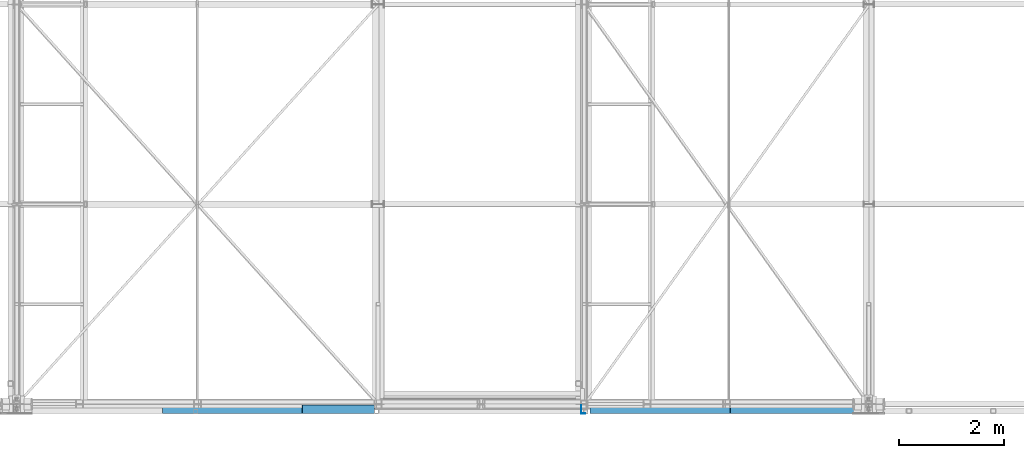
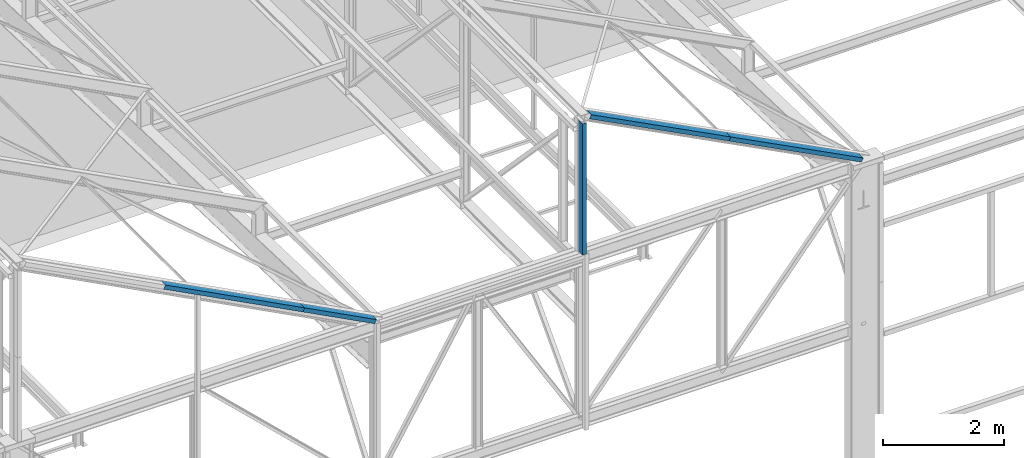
# One storey, part 117 of 123: 5 beams, 5 elements without a shape of their own.
"""IFC2X3 building model written with IfcOpenShell, lengths in millimetres."""

from ifc_helpers import new_model, si_unit, frame, origin_with_axes, place, context, subcontext, project, spatial, faceted_brep, material, type_object, element, aggregate, save


model = new_model("IFC2X3")

# Units and contexts
model_context = context("Model", 3, precision=1e-05, world=origin_with_axes())
body_context = subcontext(model_context, "Body", "Model", "MODEL_VIEW")
ifc_project = project(units=[si_unit("LENGTHUNIT", "METRE", prefix="MILLI"), si_unit("AREAUNIT", "SQUARE_METRE"), si_unit("VOLUMEUNIT", "CUBIC_METRE"), si_unit("MASSUNIT", "GRAM", prefix="KILO"), si_unit("TIMEUNIT", "SECOND"), si_unit("PLANEANGLEUNIT", "RADIAN"), si_unit("SOLIDANGLEUNIT", "STERADIAN"), si_unit("THERMODYNAMICTEMPERATUREUNIT", "DEGREE_CELSIUS"), si_unit("LUMINOUSINTENSITYUNIT", "LUMEN")], contexts=[model_context])

# Site, building, storey
site_placement = place(None, origin_with_axes())
site = spatial("IfcSite", under=ifc_project, at=site_placement, Name="Undefined", CompositionType="ELEMENT")
building_placement = place(site_placement, origin_with_axes())
building = spatial("IfcBuilding", under=site, at=building_placement, Name="Undefined", CompositionType="ELEMENT")
storey_placement = place(building_placement, origin_with_axes())
storey = spatial("IfcBuildingStorey", under=building, at=storey_placement, Name="Undefined", CompositionType="ELEMENT", Elevation=0.0)

# Assembly, beam
assembly_1_placement = place(storey_placement, origin_with_axes())
assembly_1 = element("IfcElementAssembly", 1, at=assembly_1_placement, inside=storey, Name="Steel Assembly", AssemblyPlace="NOTDEFINED", PredefinedType="RIGID_FRAME")
ifc_material = material(Name="STEEL/S235-E24")
beam_type_1 = type_object("IfcBeamType", Name="PL5*2850", PredefinedType="NOTDEFINED")
beam_1_placement = place(assembly_1_placement, frame((27476.4134830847, -177.499999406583, 9229.47960001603), z_axis=(0.887870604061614, 0.0, -0.460093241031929), x_axis=(0.46009324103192, -7.00000004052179e-09, 0.887870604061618)))
beam_1 = element("IfcBeam", 2, at=beam_1_placement, type_object=beam_type_1, material=ifc_material, Name="FEUILLURE", ObjectType="PL5*2850", context=body_context, shape_type="Brep", body=[
    faceted_brep([(-5.45696821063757e-11, -2.49999999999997, -1425.0), (2.04818206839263e-09, -2.49999999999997, 1425.0), (5.45696821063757e-11, 2.50000000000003, 1425.0), (-2.04818206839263e-09, 2.50000000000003, -1425.0), (80.0000324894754, 2.50000003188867, 1424.99999999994), (80.0000324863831, 2.50000003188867, -1425.00000000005), (75.0000324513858, -2.49999997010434, -1425.00000000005), (75.0000324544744, -2.49999997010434, 1424.99999999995), (80.0000313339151, -162.500000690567, 1424.99999999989), (80.0000313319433, -162.500000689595, -1425.00000000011), (75.0000313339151, -162.500000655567, 1424.99999999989), (75.0000313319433, -162.500000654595, -1425.00000000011)], [[[0, 1, 2, 3]], [[3, 2, 4, 5]], [[1, 0, 6, 7]], [[5, 4, 8, 9]], [[4, 2, 1, 7, 10, 8]], [[7, 6, 11, 10]], [[6, 0, 3, 5, 9, 11]], [[10, 11, 9, 8]]]),
])
aggregate(assembly_1, [beam_1])

assembly_2_placement = place(storey_placement, origin_with_axes())
assembly_2 = element("IfcElementAssembly", 3, at=assembly_2_placement, inside=storey, Name="Steel Assembly", AssemblyPlace="NOTDEFINED", PredefinedType="RIGID_FRAME")
beam_type_2 = type_object("IfcBeamType", Name="PL5*1550", PredefinedType="NOTDEFINED")
beam_2_placement = place(assembly_2_placement, frame((18760.4275717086, -177.499999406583, 8924.471740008), z_axis=(0.886082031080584, 0.0, -0.463528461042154), x_axis=(0.463528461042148, -7.00000004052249e-09, 0.886082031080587)))
beam_2 = element("IfcBeam", 4, at=beam_2_placement, type_object=beam_type_2, material=ifc_material, Name="FEUILLURE", ObjectType="PL5*1550", context=body_context, shape_type="Brep", body=[
    faceted_brep([(1.24782673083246e-09, -2.49999999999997, -775.000000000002), (8.40373104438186e-10, -2.49999999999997, 774.999999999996), (-1.24418875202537e-09, 2.50000000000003, 774.999999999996), (-8.40373104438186e-10, 2.50000000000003, -775.000000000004), (80.0000298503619, 2.50000003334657, 775.00000000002), (80.0000298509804, 2.50000003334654, -774.99999999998), (75.0000298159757, -2.4999999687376, -774.999999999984), (75.0000298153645, -2.49999996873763, 775.000000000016), (80.0000287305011, -157.500000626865, 775.00000000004), (80.0000287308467, -157.500000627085, -774.999999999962), (75.0000287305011, -157.500000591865, 775.000000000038), (75.000028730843, -157.500000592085, -774.999999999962)], [[[0, 1, 2, 3]], [[3, 2, 4, 5]], [[1, 0, 6, 7]], [[5, 4, 8, 9]], [[4, 2, 1, 7, 10, 8]], [[7, 6, 11, 10]], [[6, 0, 3, 5, 9, 11]], [[10, 11, 9, 8]]]),
])
aggregate(assembly_2, [beam_2])

assembly_3_placement = place(storey_placement, origin_with_axes())
assembly_3 = element("IfcElementAssembly", 5, at=assembly_3_placement, inside=storey, Name="Steel Assembly", AssemblyPlace="NOTDEFINED", PredefinedType="RIGID_FRAME")
beam_type_3 = type_object("IfcBeamType", Name="PL5*3000", PredefinedType="NOTDEFINED")
beam_3_placement = place(assembly_3_placement, frame((16744.5909509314, -177.499999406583, 9978.99898898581), z_axis=(0.886082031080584, 0.0, -0.463528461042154), x_axis=(0.463528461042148, -7.00000004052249e-09, 0.886082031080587)))
beam_3 = element("IfcBeam", 6, at=beam_3_placement, type_object=beam_type_3, material=ifc_material, Name="FEUILLURE", ObjectType="PL5*3000", context=body_context, shape_type="Brep", body=[
    faceted_brep([(1.43700162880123e-09, -2.5, -1500.0), (6.47560227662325e-10, -2.49999999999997, 1500.0), (-1.43700162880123e-09, 2.50000000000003, 1500.0), (-6.43922248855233e-10, 2.5, -1500.0), (80.0000297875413, 2.50000003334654, 1500.00000000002), (80.0000297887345, 2.50000003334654, -1499.99999999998), (75.0000297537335, -2.4999999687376, -1499.99999999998), (75.0000297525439, -2.4999999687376, 1500.00000000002), (80.0000286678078, -157.500000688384, 1500.00000000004), (80.0000286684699, -157.50000068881, -1499.99999999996), (75.0000286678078, -157.500000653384, 1500.00000000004), (75.0000286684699, -157.50000065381, -1499.99999999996)], [[[0, 1, 2, 3]], [[3, 2, 4, 5]], [[1, 0, 6, 7]], [[5, 4, 8, 9]], [[4, 2, 1, 7, 10, 8]], [[7, 6, 11, 10]], [[6, 0, 3, 5, 9, 11]], [[10, 11, 9, 8]]]),
])
aggregate(assembly_3, [beam_3])

assembly_4_placement = place(storey_placement, origin_with_axes())
assembly_4 = element("IfcElementAssembly", 7, at=assembly_4_placement, inside=storey, Name="Steel Assembly", AssemblyPlace="NOTDEFINED", PredefinedType="RIGID_FRAME")
beam_4_placement = place(assembly_4_placement, frame((24879.3919641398, -177.499999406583, 10575.2523311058), z_axis=(0.887870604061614, 0.0, -0.460093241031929), x_axis=(0.46009324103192, -7.00000004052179e-09, 0.887870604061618)))
beam_4 = element("IfcBeam", 8, at=beam_4_placement, type_object=beam_type_3, material=ifc_material, Name="FEUILLURE", ObjectType="PL5*3000", context=body_context, shape_type="Brep", body=[
    faceted_brep([(1.43700162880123e-09, -2.5, -1500.0), (6.47560227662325e-10, -2.49999999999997, 1500.0), (-1.43700162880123e-09, 2.50000000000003, 1500.0), (-6.43922248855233e-10, 2.5, -1500.0), (80.0000297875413, 2.50000003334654, 1500.00000000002), (80.0000297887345, 2.50000003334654, -1499.99999999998), (75.0000297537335, -2.4999999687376, -1499.99999999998), (75.0000297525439, -2.4999999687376, 1500.00000000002), (80.0000289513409, -162.500000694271, 1500.00000000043), (80.0000289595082, -162.500000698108, -1499.99999999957), (75.0000289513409, -162.500000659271, 1500.00000000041), (75.0000289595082, -162.500000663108, -1499.99999999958)], [[[0, 1, 2, 3]], [[3, 2, 4, 5]], [[1, 0, 6, 7]], [[5, 4, 8, 9]], [[4, 2, 1, 7, 10, 8]], [[7, 6, 11, 10]], [[6, 0, 3, 5, 9, 11]], [[10, 11, 9, 8]]]),
])
aggregate(assembly_4, [beam_4])

assembly_5_placement = place(storey_placement, origin_with_axes())
assembly_5 = element("IfcElementAssembly", 9, at=assembly_5_placement, inside=storey, Name="Steel Assembly", AssemblyPlace="NOTDEFINED", PredefinedType="RIGID_FRAME")
beam_type_4 = type_object("IfcBeamType", Name="PL5*2650", PredefinedType="NOTDEFINED")
beam_5_placement = place(assembly_5_placement, frame((23492.0000303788, -177.499999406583, 9885.00000000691), z_axis=(0.0, 0.0, 1.0), x_axis=(-1.0, 0.0, 0.0)))
beam_5 = element("IfcBeam", 10, at=beam_5_placement, type_object=beam_type_4, material=ifc_material, Name="FEUILLURE", ObjectType="PL5*2650", context=body_context, shape_type="Brep", body=[
    faceted_brep([(1.04409991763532e-09, -2.49999999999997, -1325.0), (1.04409991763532e-09, -2.49999999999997, 1325.0), (-1.04773789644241e-09, 2.50000000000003, 1325.0), (-1.04773789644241e-09, 2.50000000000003, -1325.0), (80.0000304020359, 2.50000003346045, 1325.0), (80.0000304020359, 2.50000003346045, -1325.0), (75.0000303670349, -2.49999996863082, -1325.0), (75.0000303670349, -2.49999996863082, 1325.0), (80.0000292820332, -157.50000067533, 1325.0), (80.0000292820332, -157.50000067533, -1325.0), (75.0000292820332, -157.50000064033, 1325.0), (75.0000292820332, -157.50000064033, -1325.0)], [[[0, 1, 2, 3]], [[3, 2, 4, 5]], [[1, 0, 6, 7]], [[5, 4, 8, 9]], [[4, 2, 1, 7, 10, 8]], [[7, 6, 11, 10]], [[6, 0, 3, 5, 9, 11]], [[10, 11, 9, 8]]]),
])
aggregate(assembly_5, [beam_5])

save(model, "model.ifc")
